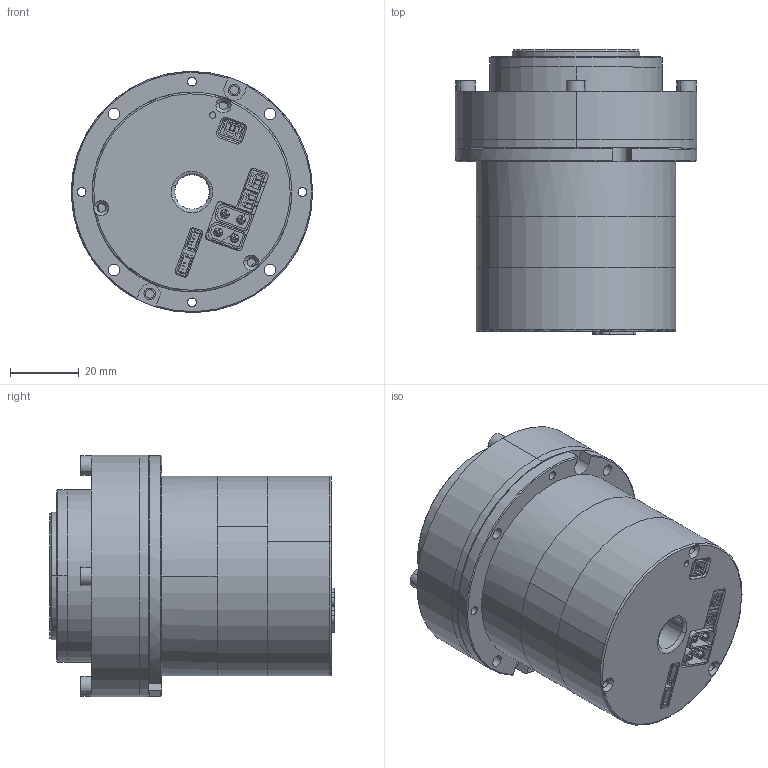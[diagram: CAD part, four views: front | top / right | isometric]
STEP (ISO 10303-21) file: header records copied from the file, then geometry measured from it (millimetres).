
FILE_DESCRIPTION (( 'STEP AP203' ), '1' );
FILE_NAME ('1MT.055.019（RH-14-100-E-N 一体化谐波减速模组-双编+ECAT）.STEP', '2024-10-30T03:43:57', ( '' ), ( '' ), 'SwSTEP 2.0', 'SolidWorks 2020', '' );
FILE_SCHEMA (( 'CONFIG_CONTROL_DESIGN' ));
Length unit declared in the file: millimetre
Products named in the file (1): 1MT.055.019（RH-14-100-E-N 一体化谐波减速模组-双编+ECAT）
Bounding box: 70 x 82.48 x 70 mm (x, y, z)
Surface area: 40814 mm2 (no closed solid volume)
Topology: 0 solids, 58 shells, 513 faces, 2454 edges, 1980 vertices
Faces by surface type: plane 327, cylinder 140, cone 24, bspline 16, torus 6
Entity records: 25316 total; most frequent: CARTESIAN_POINT 5809, DIRECTION 4036, ORIENTED_EDGE 3328, EDGE_CURVE 2454, VERTEX_POINT 1980, LINE 1590, VECTOR 1590, AXIS2_PLACEMENT_3D 1223
